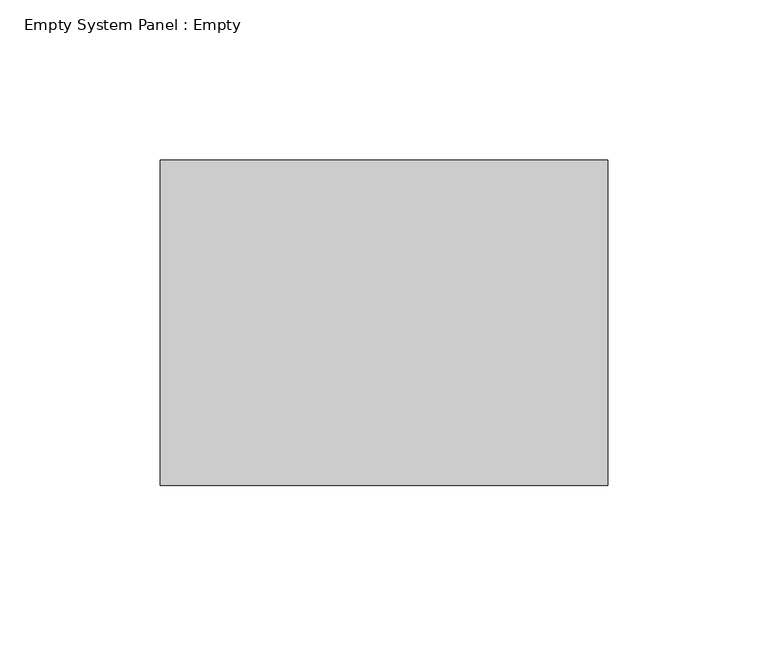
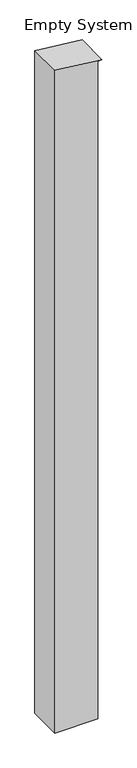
"""IFC4 building model written with IfcOpenShell, lengths in millimetres: plate geometry, Empty System Panel : Empty."""

from ifc_helpers import new_model, si_unit, frame, origin, place, context, project, spatial, polyline, outline, extrude, source, transform, mapped, element, save


def empty_system_panel_empty_92adc47d(model_context):
    return source(origin(), model_context, "Body", "SweptSolid", [
        extrude(outline(polyline([(0.0, -69.85), (0.0, 57.15), (2059.530219, 57.15), (2059.530219, 69.85), (2075.155409, -69.85), (0.0, -69.85)])), frame((0.0, -50.8, 0.0), z_axis=(0.0, 1.0, 0.0), x_axis=(0.0, 0.0, 1.0)), (0.0, 0.0, 1.0), 101.6),
    ])


if __name__ == "__main__":
    model = new_model("IFC4")
    model_context = context("Model", 3, world=origin())
    ifc_project = project(units=[si_unit("LENGTHUNIT", "METRE", prefix="MILLI")], contexts=[model_context])
    site = spatial("IfcSite", under=ifc_project)
    building = spatial("IfcBuilding", under=site)
    placement = place(None, origin())
    empty_system_panel_empty_shape = empty_system_panel_empty_92adc47d(model_context)
    element("IfcPlate", 1, ObjectType="Empty System Panel : Empty", at=placement, inside=building, context=model_context, shape_type="MappedRepresentation", body=[
        mapped(empty_system_panel_empty_shape, transform((0.0, 0.0, 0.0), x_axis=(1.0, 0.0, 0.0), y_axis=(0.0, 1.0, 0.0), z_axis=(0.0, 0.0, 1.0))),
    ])
    save(model, "model.ifc")
